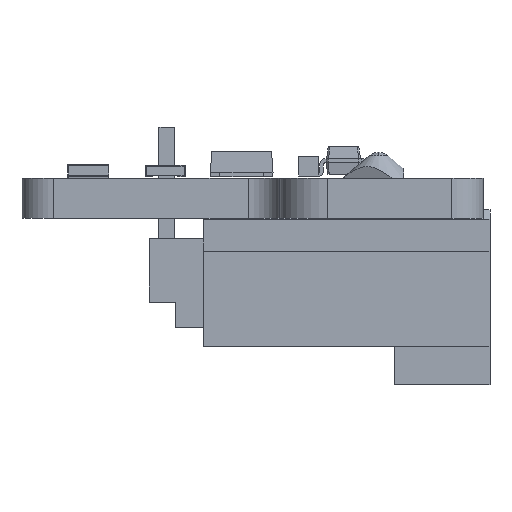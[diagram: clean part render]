
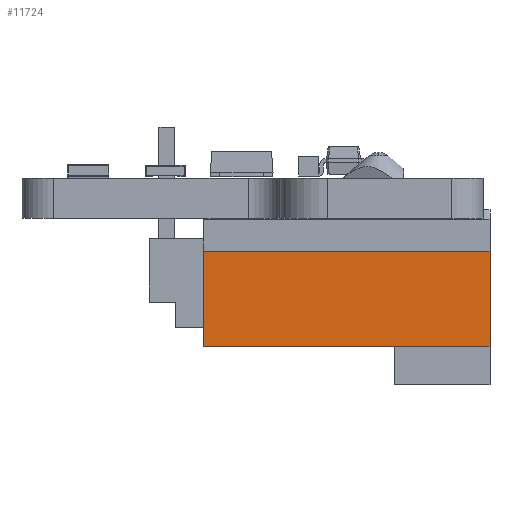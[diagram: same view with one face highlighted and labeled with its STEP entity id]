
A CAD part, left-side view. The second image highlights one B-rep face of the part: STEP entity #11724.
In plain terms, the highlighted planar face has unit normal (-1, 0, 0) as drawn and (1, 0, 0) by its records, which use the part's own axes.
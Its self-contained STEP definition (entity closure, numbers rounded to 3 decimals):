
#8407 = VERTEX_POINT('',#8408);
#8408 = CARTESIAN_POINT('',(5.08,2.54,5.715));
#8414 = EDGE_CURVE('',#8415,#8407,#8417,.T.);
#8415 = VERTEX_POINT('',#8416);
#8416 = CARTESIAN_POINT('',(5.08,2.54,-5.715));
#8417 = LINE('',#8418,#8419);
#8418 = CARTESIAN_POINT('',(5.08,2.54,
    -5.715));
#8419 = VECTOR('',#8420,1.);
#8420 = DIRECTION('',(0.,0.,1.));
#8981 = EDGE_CURVE('',#8982,#8415,#8984,.T.);
#8982 = VERTEX_POINT('',#8983);
#8983 = CARTESIAN_POINT('',(5.08,-1.27,-5.715));
#8984 = LINE('',#8985,#8986);
#8985 = CARTESIAN_POINT('',(5.08,-1.27,
    -5.715));
#8986 = VECTOR('',#8987,1.);
#8987 = DIRECTION('',(0.,1.,0.));
#11232 = VERTEX_POINT('',#11233);
#11233 = CARTESIAN_POINT('',(5.08,-1.27,5.715));
#11239 = EDGE_CURVE('',#11232,#8407,#11240,.T.);
#11240 = LINE('',#11241,#11242);
#11241 = CARTESIAN_POINT('',(5.08,-1.27,
    5.715));
#11242 = VECTOR('',#11243,1.);
#11243 = DIRECTION('',(0.,1.,0.));
#11724 = ADVANCED_FACE('',(#11725),#11736,.T.);
#11725 = FACE_BOUND('',#11726,.T.);
#11726 = EDGE_LOOP('',(#11727,#11728,#11729,#11735));
#11727 = ORIENTED_EDGE('',*,*,#8414,.T.);
#11728 = ORIENTED_EDGE('',*,*,#11239,.F.);
#11729 = ORIENTED_EDGE('',*,*,#11730,.F.);
#11730 = EDGE_CURVE('',#8982,#11232,#11731,.T.);
#11731 = LINE('',#11732,#11733);
#11732 = CARTESIAN_POINT('',(5.08,-1.27,
    -5.715));
#11733 = VECTOR('',#11734,1.);
#11734 = DIRECTION('',(0.,0.,1.));
#11735 = ORIENTED_EDGE('',*,*,#8981,.T.);
#11736 = PLANE('',#11737);
#11737 = AXIS2_PLACEMENT_3D('',#11738,#11739,#11740);
#11738 = CARTESIAN_POINT('',(5.08,-1.27,-5.715));
#11739 = DIRECTION('',(1.,0.,0.));
#11740 = DIRECTION('',(0.,1.,-0.));
